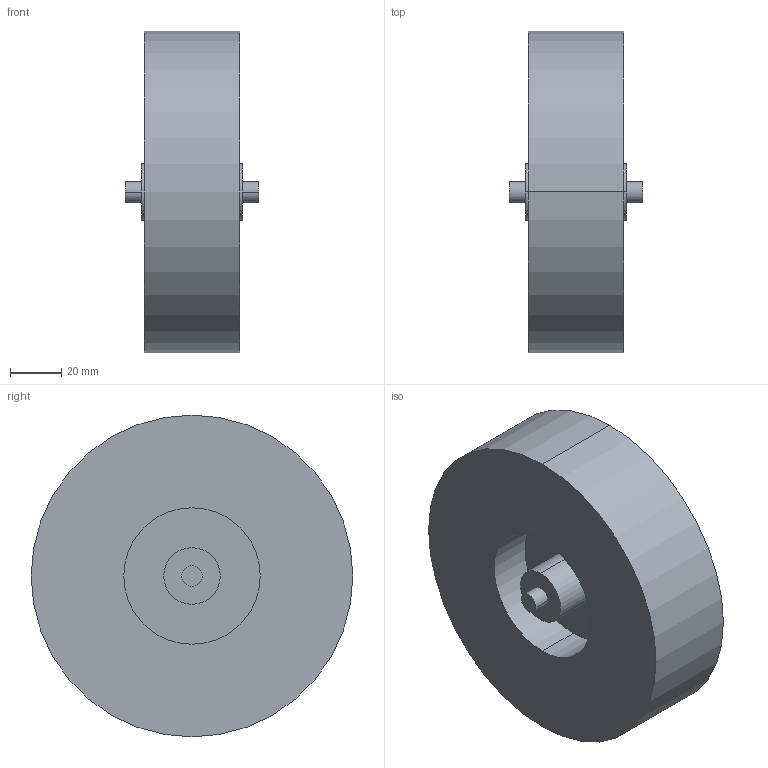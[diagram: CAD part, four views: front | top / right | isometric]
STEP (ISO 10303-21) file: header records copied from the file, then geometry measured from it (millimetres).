
FILE_DESCRIPTION((''),'2;1');
FILE_NAME('RUP125_1','2002-12-27T',('Lipro doo'),('Lipro d.o.o.'),'PRO/ENGINEER BY PARAMETRIC TECHNOLOGY CORPORATION, 2001150','PRO/ENGINEER BY PARAMETRIC TECHNOLOGY CORPORATION, 2001150','');
FILE_SCHEMA(('CONFIG_CONTROL_DESIGN'));
Length unit declared in the file: millimetre
Products named in the file (1): RUP125_1
Bounding box: 52 x 125 x 125 mm (x, y, z)
Volume: 393386.3 mm3; surface area: 47549.6 mm2
Topology: 1 solids, 1 shells, 22 faces, 42 edges, 28 vertices
Faces by surface type: cylinder 14, plane 8
Entity records: 612 total; most frequent: DIRECTION 114, CARTESIAN_POINT 92, ORIENTED_EDGE 84, AXIS2_PLACEMENT_3D 50, EDGE_CURVE 42, VERTEX_POINT 28, EDGE_LOOP 28, CIRCLE 28
